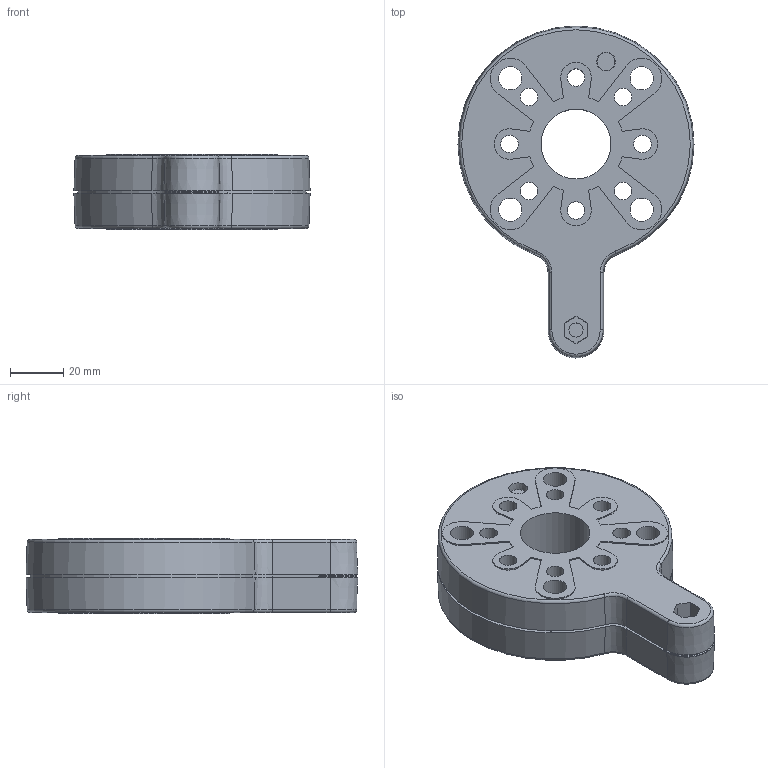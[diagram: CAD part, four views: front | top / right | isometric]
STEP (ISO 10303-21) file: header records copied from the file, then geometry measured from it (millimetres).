
FILE_DESCRIPTION(/* description */ (''),/* implementation_level */ '2;1');
FILE_NAME(/* name */ 'A5W00139354A_001.stp',/* time_stamp */ '2020-10-19T10:01:16+02:00',/* author */ (''),/* organization */ (''),/* preprocessor_version */ 'ST-DEVELOPER v16.7',/* originating_system */ 'SIEMENS PLM Software NX 12.0',/* authorisation */ '');
FILE_SCHEMA (('AUTOMOTIVE_DESIGN { 1 0 10303 214 3 1 1 1 }'));
Length unit declared in the file: millimetre
Products named in the file (1): A5W00139354A_001
Bounding box: 88.9 x 124.98 x 28.5 mm (x, y, z)
Volume: 159334.5 mm3; surface area: 32771 mm2
Topology: 1 solids, 1 shells, 138 faces, 380 edges, 254 vertices
Faces by surface type: plane 62, cylinder 55, cone 11, torus 10
Full cylindrical faces by diameter (mm): 5.277 x2, 6.6 x8, 8.8 x4, 26.3 x1
Entity records: 4332 total; most frequent: DIRECTION 766, CARTESIAN_POINT 762, ORIENTED_EDGE 698, EDGE_CURVE 349, AXIS2_PLACEMENT_3D 284, VERTEX_POINT 240, LINE 198, VECTOR 198
